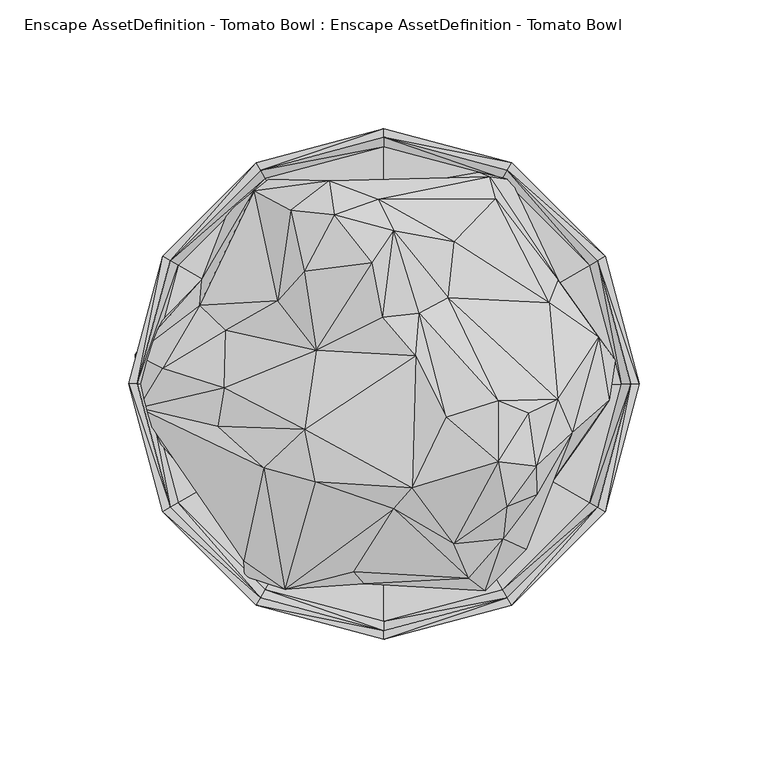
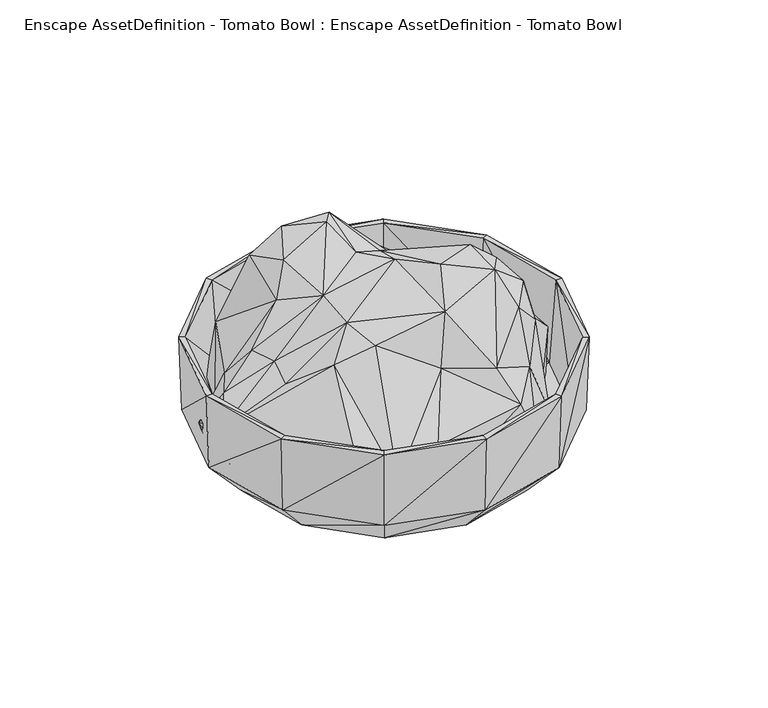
"""IFC4 building model written with IfcOpenShell, lengths in millimetres: geographic element geometry, Enscape AssetDefinition - Tomato Bowl : Enscape AssetDefinition - Tomato Bowl."""

from ifc_helpers import new_model, si_unit, origin, place, context, project, spatial, faceted_brep, source, transform, mapped, element, save


def enscape_assetdefinition_tomato_bowl_enscape_assetdefinition_e00e02f3(model_context):
    return source(origin(), model_context, "Body", "Brep", [
        faceted_brep([(97.8051051, 0.0, 20.0973265), (85.8853832, 49.5859198, 62.7967417), (99.1722941, 0.0, 62.7967417), (84.7017989, 48.9025526, 20.0973265), (49.5859198, 85.8853832, 62.7967417), (83.0462277, 47.9467511, 62.9015267), (47.9467511, 83.0462277, 62.9015267), (48.9025526, 84.7017989, 20.0973265), (79.4872642, 0.0, 0.0), (68.8381493, 39.7436321, 0.0), (0.0, 99.1722941, 62.7967417), (0.0, 95.8935022, 62.9015267), (79.8476189, 46.1002961, 15.5297117), (46.0998453, 79.8476189, 15.5297117), (0.0, 92.2001451, 15.5297117), (-47.9467511, 83.0462277, 62.9015267), (0.0, 97.8051051, 20.0973265), (-49.5859198, 85.8853832, 62.7967417), (-46.1002961, 79.8476189, 15.5297117), (-83.0462277, 47.9467511, 62.9015267), (0.0022779, 0.003189, 3.2792436), (92.2001451, 0.0, 15.5297117), (95.8935022, 0.0, 62.9015267), (79.8476189, -46.1002961, 15.5297117), (83.0462277, -47.9467511, 62.9015267), (85.8853832, -49.5859198, 62.7967417), (84.7017989, -48.9025526, 20.0973265), (48.9025526, -84.7017989, 20.0973265), (49.5859198, -85.8853832, 62.7967417), (46.0998453, -79.8476189, 15.5297117), (47.9467511, -83.0462277, 62.9015267), (0.0, -92.2001451, 15.5297117), (0.0, -95.8935022, 62.9015267), (0.0, -99.1722941, 62.7967417), (0.0, -97.8051051, 20.0973265), (-48.9025526, -84.7017989, 20.0973265), (-49.5859198, -85.8853832, 62.7967417), (-46.1002961, -79.8476189, 15.5297117), (-47.9467511, -83.0462277, 62.9015267), (-79.8476189, -46.0998453, 15.5297117), (-83.0462277, -47.9467511, 62.9015267), (-85.8853832, -49.5859198, 62.7967417), (-84.7017989, -48.9025526, 20.0973265), (-97.8051051, 0.0, 20.0973265), (-99.1722941, 0.0, 62.7967417), (-92.2001451, 0.0, 15.5297117), (-95.8935022, 0.0, 62.9015267), (-79.8476189, 46.1002961, 15.5297117), (-85.8853832, 49.5859198, 62.7967417), (-84.7017989, 48.9025526, 20.0973265), (-48.9025526, 84.7017989, 20.0973265), (0.0, 79.4872642, 0.0), (-39.7436321, 68.8381493, 0.0), (-68.8381493, 39.7436321, 0.0), (0.0, 0.0, 0.0), (39.7436321, 68.8381493, 0.0), (68.8381493, -39.7436321, 0.0), (39.7436321, -68.8381493, 0.0), (0.0, -79.4872642, 0.0), (-39.7436321, -68.8381493, 0.0), (-68.8381493, -39.7436321, 0.0), (-79.4872642, 0.0, 0.0)], [[[0, 1, 2]], [[1, 0, 3]], [[3, 4, 1]], [[5, 2, 1]], [[1, 6, 5]], [[6, 1, 4]], [[4, 3, 7]], [[3, 8, 9]], [[8, 3, 0]], [[9, 7, 3]], [[7, 10, 4]], [[4, 11, 6]], [[11, 4, 10]], [[6, 12, 5]], [[12, 6, 13]], [[11, 13, 6]], [[13, 11, 14]], [[15, 14, 11]], [[10, 15, 11]], [[10, 7, 16]], [[16, 17, 10]], [[15, 10, 17]], [[14, 15, 18]], [[19, 18, 15]], [[17, 19, 15]], [[20, 13, 14]], [[20, 14, 18]], [[20, 12, 13]], [[21, 5, 12]], [[20, 21, 12]], [[5, 21, 22]], [[2, 5, 22]], [[23, 22, 21]], [[20, 23, 21]], [[22, 23, 24]], [[25, 22, 24]], [[22, 25, 2]], [[26, 2, 25]], [[2, 26, 0]], [[27, 25, 28]], [[25, 27, 26]], [[24, 28, 25]], [[24, 29, 30]], [[29, 24, 23]], [[28, 24, 30]], [[20, 29, 23]], [[31, 30, 29]], [[20, 31, 29]], [[30, 31, 32]], [[33, 30, 32]], [[30, 33, 28]], [[34, 28, 33]], [[28, 34, 27]], [[35, 33, 36]], [[33, 35, 34]], [[32, 36, 33]], [[32, 37, 38]], [[37, 32, 31]], [[36, 32, 38]], [[20, 37, 31]], [[39, 38, 37]], [[20, 39, 37]], [[38, 39, 40]], [[41, 38, 40]], [[38, 41, 36]], [[42, 36, 41]], [[36, 42, 35]], [[43, 41, 44]], [[41, 43, 42]], [[40, 44, 41]], [[40, 45, 46]], [[45, 40, 39]], [[44, 40, 46]], [[20, 45, 39]], [[47, 46, 45]], [[20, 47, 45]], [[46, 47, 19]], [[48, 46, 19]], [[46, 48, 44]], [[49, 44, 48]], [[44, 49, 43]], [[50, 48, 17]], [[48, 50, 49]], [[19, 17, 48]], [[18, 19, 47]], [[20, 18, 47]], [[17, 16, 50]], [[50, 51, 52]], [[51, 50, 16]], [[52, 49, 50]], [[49, 52, 53]], [[53, 43, 49]], [[51, 54, 52]], [[52, 54, 53]], [[16, 55, 51]], [[55, 54, 51]], [[55, 16, 7]], [[7, 9, 55]], [[9, 54, 55]], [[8, 54, 9]], [[0, 56, 8]], [[56, 54, 8]], [[26, 57, 56]], [[56, 0, 26]], [[57, 54, 56]], [[27, 58, 57]], [[57, 26, 27]], [[58, 54, 57]], [[34, 59, 58]], [[58, 27, 34]], [[59, 54, 58]], [[35, 60, 59]], [[59, 34, 35]], [[60, 54, 59]], [[53, 54, 61]], [[61, 54, 60]], [[42, 61, 60]], [[60, 35, 42]], [[43, 53, 61]], [[61, 42, 43]]]),
        faceted_brep([(4.6664756, 76.6490176, 26.354678), (63.6928603, -40.5071825, 28.8904179), (-77.4458274, -33.9660011, 21.474082), (-7.5880918, -77.5369406, 27.6758522), (57.4318655, 40.2096882, 16.8581735), (38.7112945, -79.3355629, 16.6768543), (87.4944851, -6.3972129, 42.3244797), (73.1269568, -18.9606622, 60.3092909), (55.297941, -64.1001463, 38.3855589), (79.970181, -17.6645443, 24.8849858), (39.3263251, -80.2991018, 36.9646139), (46.4324169, -60.1411872, 65.5292943), (32.9332091, -75.5620152, 57.2924614), (47.6679392, -47.7572307, 92.5614163), (27.1145813, -62.0988011, 72.7146566), (59.4272949, -43.0912115, 78.362897), (-11.8176686, -72.9857236, 46.8725003), (3.890628, -48.3909398, 72.2435862), (44.3454161, -30.1332325, 105.3745225), (11.0623222, -40.2215309, 98.4014571), (59.1626018, -31.9619179, 94.8680043), (67.4254075, -5.9411805, 69.0996498), (56.199532, -11.3725699, 96.8502164), (24.1984315, -12.8686847, 105.1316932), (44.3832278, -6.5862774, 105.7535633), (64.2336309, 31.5008759, 54.0068373), (25.0626598, 33.5382186, 81.6070586), (83.4644511, 18.1164779, 45.7130559), (89.8156539, 9.1639319, 29.8516862), (67.791231, 40.3905511, 42.2365479), (27.3451004, 55.3485155, 74.469991), (43.383237, 72.04815, 55.7448678), (41.0064943, 80.6029662, 44.6542948), (49.3071042, 79.4184729, 25.6954581), (37.0908082, 82.3350772, 23.4234948), (-70.7101151, 40.5723266, 24.9173325), (-44.6971208, 79.4909075, 18.2372052), (-21.2367252, 78.9246261, 76.8535659), (-2.1498681, 71.8239993, 87.0607793), (-36.1664407, 67.5101429, 82.8471482), (-19.3301346, 65.7042339, 95.2219814), (-50.3868237, 75.0308111, 44.1098846), (-60.6354848, 66.6554794, 21.3087052), (-71.556583, 30.5537321, 48.1075719), (-41.3518213, 32.4083865, 79.3469474), (-30.8853909, 43.8761748, 92.4962685), (-26.2252949, 13.1356539, 88.373743), (-61.559394, 20.9706668, 64.0755519), (-96.6347307, 11.5511566, 39.1427241), (-85.9664828, 6.1334339, 56.3876852), (-62.0204397, -1.469236, 71.1552128), (-95.1987505, -9.2586931, 48.0524451), (-30.8498554, -17.6645443, 92.7928463), (-64.6746308, -16.4240077, 67.7174255), (12.412197, 11.0317981, 97.6625085), (-46.7704535, -32.5300246, 82.4685544), (-26.6936272, -38.0151756, 90.2215764), (-54.5694754, -68.6235726, 48.6314856), (-38.4657383, -79.6927288, 40.3176583), (13.7657169, 27.4466965, 92.3969522), (3.7521326, 59.4805963, 99.1786718), (-0.4660554, 25.8571878, 97.305797), (-4.6200068, 47.119882, 103.8733944), (-32.2329886, -79.2298615, 22.7697417), (-54.1339442, -74.6645257, 32.3687494), (-53.8651533, -65.1748553, 18.9520046), (-90.6621143, 5.2787713, 13.6609338), (-94.4274589, -14.4595597, 29.6835806), (-88.0571231, 22.7077827, 21.8093861)], [[[0, 1, 2]], [[2, 1, 3]], [[1, 0, 4]], [[3, 1, 5]], [[1, 6, 7]], [[5, 1, 8]], [[1, 7, 8]], [[1, 4, 9]], [[9, 6, 1]], [[5, 10, 3]], [[5, 8, 10]], [[8, 7, 11]], [[8, 11, 10]], [[10, 11, 12]], [[3, 10, 12]], [[11, 13, 14]], [[12, 11, 14]], [[7, 15, 11]], [[15, 13, 11]], [[3, 12, 16]], [[16, 12, 17]], [[12, 14, 17]], [[14, 18, 19]], [[14, 13, 18]], [[17, 14, 19]], [[18, 13, 20]], [[15, 20, 13]], [[7, 20, 15]], [[21, 22, 20]], [[22, 18, 20]], [[7, 21, 20]], [[19, 18, 23]], [[24, 23, 18]], [[24, 18, 22]], [[24, 22, 21]], [[25, 26, 21]], [[26, 24, 21]], [[27, 21, 7]], [[25, 21, 27]], [[27, 7, 6]], [[28, 27, 6]], [[29, 27, 28]], [[29, 25, 27]], [[30, 26, 25]], [[29, 31, 25]], [[31, 30, 25]], [[32, 31, 29]], [[4, 29, 28]], [[33, 29, 4]], [[33, 32, 29]], [[28, 6, 9]], [[9, 4, 28]], [[4, 0, 33]], [[33, 0, 34]], [[34, 32, 33]], [[0, 2, 35]], [[36, 37, 0]], [[0, 35, 36]], [[0, 37, 32]], [[0, 32, 34]], [[37, 38, 32]], [[39, 40, 37]], [[36, 41, 37]], [[41, 39, 37]], [[37, 40, 38]], [[36, 42, 41]], [[36, 35, 42]], [[35, 43, 41]], [[35, 41, 42]], [[41, 44, 39]], [[43, 44, 41]], [[44, 45, 39]], [[40, 39, 45]], [[46, 45, 44]], [[44, 47, 46]], [[43, 47, 44]], [[35, 48, 43]], [[48, 49, 43]], [[43, 49, 47]], [[47, 50, 46]], [[47, 49, 50]], [[49, 51, 50]], [[48, 51, 49]], [[46, 50, 52]], [[50, 51, 53]], [[50, 53, 52]], [[46, 52, 54]], [[53, 55, 52]], [[54, 52, 19]], [[52, 56, 19]], [[55, 56, 52]], [[51, 55, 53]], [[51, 57, 55]], [[55, 57, 58]], [[55, 58, 56]], [[56, 58, 17]], [[17, 19, 56]], [[54, 19, 23]], [[59, 23, 24]], [[59, 54, 23]], [[26, 59, 24]], [[26, 60, 59]], [[61, 54, 59]], [[59, 60, 61]], [[30, 60, 26]], [[62, 61, 60]], [[60, 40, 62]], [[38, 40, 60]], [[38, 60, 30]], [[54, 61, 46]], [[46, 61, 62]], [[45, 46, 62]], [[45, 62, 40]], [[32, 38, 31]], [[31, 38, 30]], [[17, 58, 16]], [[63, 3, 58]], [[64, 58, 57]], [[63, 58, 64]], [[3, 16, 58]], [[65, 3, 63]], [[2, 3, 65]], [[65, 63, 64]], [[65, 64, 57]], [[2, 57, 51]], [[65, 57, 2]], [[35, 2, 66]], [[66, 2, 67]], [[2, 51, 67]], [[67, 51, 48]], [[67, 48, 66]], [[35, 66, 68]], [[66, 48, 68]], [[35, 68, 48]]]),
    ])


if __name__ == "__main__":
    model = new_model("IFC4")
    model_context = context("Model", 3, world=origin())
    ifc_project = project(units=[si_unit("LENGTHUNIT", "METRE", prefix="MILLI")], contexts=[model_context])
    site = spatial("IfcSite", under=ifc_project)
    building = spatial("IfcBuilding", under=site)
    placement = place(None, origin())
    enscape_assetdefinition_tomato_bowl_enscape_assetdefinition_shape = enscape_assetdefinition_tomato_bowl_enscape_assetdefinition_e00e02f3(model_context)
    element("IfcGeographicElement", 1, ObjectType="Enscape AssetDefinition - Tomato Bowl : Enscape AssetDefinition - Tomato Bowl", at=placement, inside=building, context=model_context, shape_type="MappedRepresentation", body=[
        mapped(enscape_assetdefinition_tomato_bowl_enscape_assetdefinition_shape, transform((0.0, 0.0, 0.0), x_axis=(1.0, 0.0, 0.0), y_axis=(0.0, 1.0, 0.0), z_axis=(0.0, 0.0, 1.0))),
    ])
    save(model, "model.ifc")
